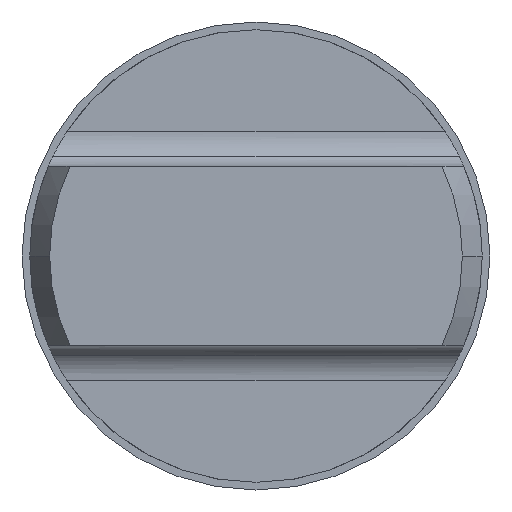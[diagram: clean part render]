
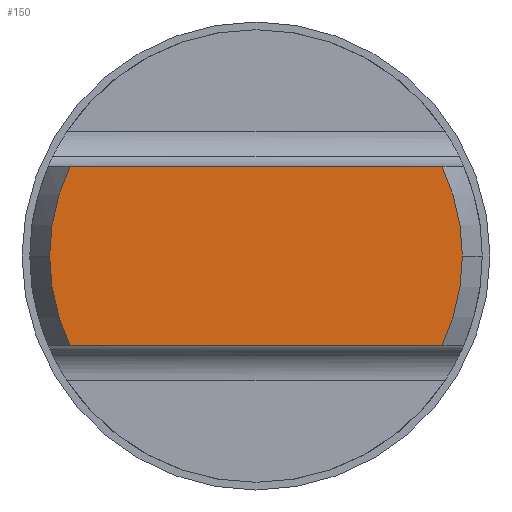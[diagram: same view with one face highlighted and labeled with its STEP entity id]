
A CAD part, left-side view. The second image highlights one B-rep face of the part: STEP entity #150.
In plain terms, the highlighted planar face has unit normal (-1, 0, 0).
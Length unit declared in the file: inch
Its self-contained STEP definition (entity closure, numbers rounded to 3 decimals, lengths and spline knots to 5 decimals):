
#150=ADVANCED_FACE('',(#326),#327,.F.);
#326=FACE_OUTER_BOUND('',#545,.T.);
#327=PLANE('',#546);
#545=EDGE_LOOP('',(#870,#871,#872,#873,#874,#875));
#546=AXIS2_PLACEMENT_3D('',#876,#877,#878);
#870=ORIENTED_EDGE('',*,*,#1248,.T.);
#871=ORIENTED_EDGE('',*,*,#1290,.T.);
#872=ORIENTED_EDGE('',*,*,#1339,.F.);
#873=ORIENTED_EDGE('',*,*,#1340,.T.);
#874=ORIENTED_EDGE('',*,*,#1304,.T.);
#875=ORIENTED_EDGE('',*,*,#1341,.F.);
#876=CARTESIAN_POINT('',(-4.55787,-1.,0.13394));
#877=DIRECTION('',(1.0,0.,0.));
#878=DIRECTION('',(0.,0.,1.0));
#1248=EDGE_CURVE('',#1482,#1479,#1483,.T.);
#1290=EDGE_CURVE('',#1479,#1552,#1554,.T.);
#1304=EDGE_CURVE('',#1571,#1576,#1578,.T.);
#1339=EDGE_CURVE('',#1632,#1552,#1633,.T.);
#1340=EDGE_CURVE('',#1632,#1571,#1634,.T.);
#1341=EDGE_CURVE('',#1482,#1576,#1635,.T.);
#1479=VERTEX_POINT('',#1811);
#1482=VERTEX_POINT('',#1815);
#1483=CIRCLE('',#1816,0.08984);
#1552=VERTEX_POINT('',#1934);
#1554=CIRCLE('',#1945,0.08984);
#1571=VERTEX_POINT('',#1983);
#1576=VERTEX_POINT('',#1989);
#1578=CIRCLE('',#2000,0.08984);
#1632=VERTEX_POINT('',#2088);
#1633=LINE('',#2089,#2090);
#1634=CIRCLE('',#2091,0.08984);
#1635=LINE('',#2092,#2093);
#1811=CARTESIAN_POINT('',(-4.55787,-1.08984,0.13394));
#1815=CARTESIAN_POINT('',(-4.55787,-1.08091,0.09489));
#1816=AXIS2_PLACEMENT_3D('',#2307,#2308,#2309);
#1934=CARTESIAN_POINT('',(-4.55787,-1.08091,0.17299));
#1945=AXIS2_PLACEMENT_3D('',#2362,#2363,#2364);
#1983=CARTESIAN_POINT('',(-4.55787,-0.91016,0.13394));
#1989=CARTESIAN_POINT('',(-4.55787,-0.91909,0.09489));
#2000=AXIS2_PLACEMENT_3D('',#2381,#2382,#2383);
#2088=CARTESIAN_POINT('',(-4.55787,-0.91909,0.17299));
#2089=CARTESIAN_POINT('',(-4.55787,-1.,0.17299));
#2090=VECTOR('',#2430,0.3937);
#2091=AXIS2_PLACEMENT_3D('',#2431,#2432,#2433);
#2092=CARTESIAN_POINT('',(-4.55787,-1.,0.09489));
#2093=VECTOR('',#2434,0.3937);
#2307=CARTESIAN_POINT('',(-4.55787,-1.,0.13394));
#2308=DIRECTION('',(-1.0,0.,0.));
#2309=DIRECTION('',(0.,-1.0,0.));
#2362=CARTESIAN_POINT('',(-4.55787,-1.,0.13394));
#2363=DIRECTION('',(-1.0,0.,0.));
#2364=DIRECTION('',(0.,-1.0,0.));
#2381=CARTESIAN_POINT('',(-4.55787,-1.,0.13394));
#2382=DIRECTION('',(-1.0,0.,0.));
#2383=DIRECTION('',(0.,1.0,0.));
#2430=DIRECTION('',(0.0,-1.0,0.));
#2431=CARTESIAN_POINT('',(-4.55787,-1.,0.13394));
#2432=DIRECTION('',(-1.0,0.,0.));
#2433=DIRECTION('',(0.,1.0,0.));
#2434=DIRECTION('',(0.0,1.0,0.));
